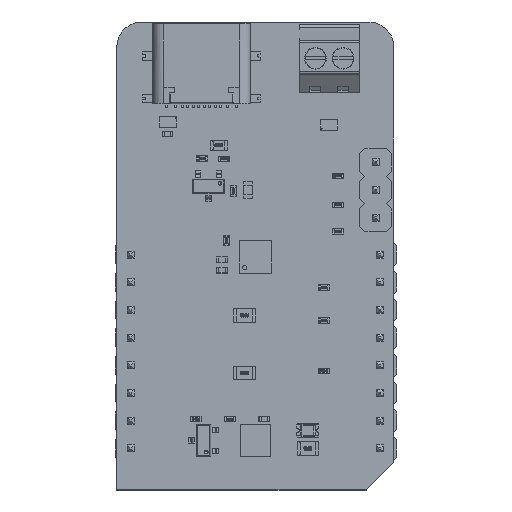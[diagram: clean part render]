
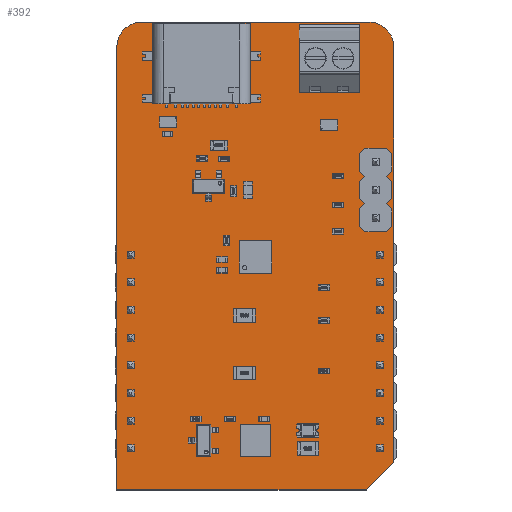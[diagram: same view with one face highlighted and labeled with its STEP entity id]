
A CAD part, top view. The second image highlights one B-rep face of the part: STEP entity #392.
In plain terms, the highlighted planar face has unit normal (0, 0, 1).
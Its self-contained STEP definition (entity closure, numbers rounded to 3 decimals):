
#163 = VERTEX_POINT('',#164);
#164 = CARTESIAN_POINT('',(-1.27,-3.81,0.));
#170 = EDGE_CURVE('',#163,#171,#173,.T.);
#171 = VERTEX_POINT('',#172);
#172 = CARTESIAN_POINT('',(-1.27,36.83,0.));
#173 = LINE('',#174,#175);
#174 = CARTESIAN_POINT('',(-1.27,-3.81,0.));
#175 = VECTOR('',#176,1.);
#176 = DIRECTION('',(0.,1.,0.));
#201 = EDGE_CURVE('',#171,#202,#204,.T.);
#202 = VERTEX_POINT('',#203);
#203 = CARTESIAN_POINT('',(1.016,39.116,0.));
#204 = CIRCLE('',#205,2.288);
#205 = AXIS2_PLACEMENT_3D('',#206,#207,#208);
#206 = CARTESIAN_POINT('',(1.018,36.828,0.));
#207 = DIRECTION('',(0.,0.,-1.));
#208 = DIRECTION('',(-1.,0.001,0.));
#234 = EDGE_CURVE('',#202,#235,#237,.T.);
#235 = VERTEX_POINT('',#236);
#236 = CARTESIAN_POINT('',(21.844,39.116,0.));
#237 = LINE('',#238,#239);
#238 = CARTESIAN_POINT('',(1.016,39.116,0.));
#239 = VECTOR('',#240,1.);
#240 = DIRECTION('',(1.,0.,0.));
#265 = EDGE_CURVE('',#235,#266,#268,.T.);
#266 = VERTEX_POINT('',#267);
#267 = CARTESIAN_POINT('',(24.13,36.83,0.));
#268 = CIRCLE('',#269,2.288);
#269 = AXIS2_PLACEMENT_3D('',#270,#271,#272);
#270 = CARTESIAN_POINT('',(21.842,36.828,0.));
#271 = DIRECTION('',(0.,0.,-1.));
#272 = DIRECTION('',(0.001,1.,0.));
#298 = EDGE_CURVE('',#266,#299,#301,.T.);
#299 = VERTEX_POINT('',#300);
#300 = CARTESIAN_POINT('',(24.13,-1.27,0.));
#301 = LINE('',#302,#303);
#302 = CARTESIAN_POINT('',(24.13,36.83,0.));
#303 = VECTOR('',#304,1.);
#304 = DIRECTION('',(0.,-1.,0.));
#329 = EDGE_CURVE('',#299,#330,#332,.T.);
#330 = VERTEX_POINT('',#331);
#331 = CARTESIAN_POINT('',(21.59,-3.81,0.));
#332 = LINE('',#333,#334);
#333 = CARTESIAN_POINT('',(24.13,-1.27,0.));
#334 = VECTOR('',#335,1.);
#335 = DIRECTION('',(-0.707,-0.707,0.));
#360 = EDGE_CURVE('',#330,#163,#361,.T.);
#361 = LINE('',#362,#363);
#362 = CARTESIAN_POINT('',(21.59,-3.81,0.));
#363 = VECTOR('',#364,1.);
#364 = DIRECTION('',(-1.,0.,0.));
#392 = ADVANCED_FACE('',(#393),#402,.T.);
#393 = FACE_BOUND('',#394,.F.);
#394 = EDGE_LOOP('',(#395,#396,#397,#398,#399,#400,#401));
#395 = ORIENTED_EDGE('',*,*,#170,.T.);
#396 = ORIENTED_EDGE('',*,*,#201,.T.);
#397 = ORIENTED_EDGE('',*,*,#234,.T.);
#398 = ORIENTED_EDGE('',*,*,#265,.T.);
#399 = ORIENTED_EDGE('',*,*,#298,.T.);
#400 = ORIENTED_EDGE('',*,*,#329,.T.);
#401 = ORIENTED_EDGE('',*,*,#360,.T.);
#402 = PLANE('',#403);
#403 = AXIS2_PLACEMENT_3D('',#404,#405,#406);
#404 = CARTESIAN_POINT('',(-1.27,-3.81,0.));
#405 = DIRECTION('',(0.,0.,1.));
#406 = DIRECTION('',(1.,0.,0.));
